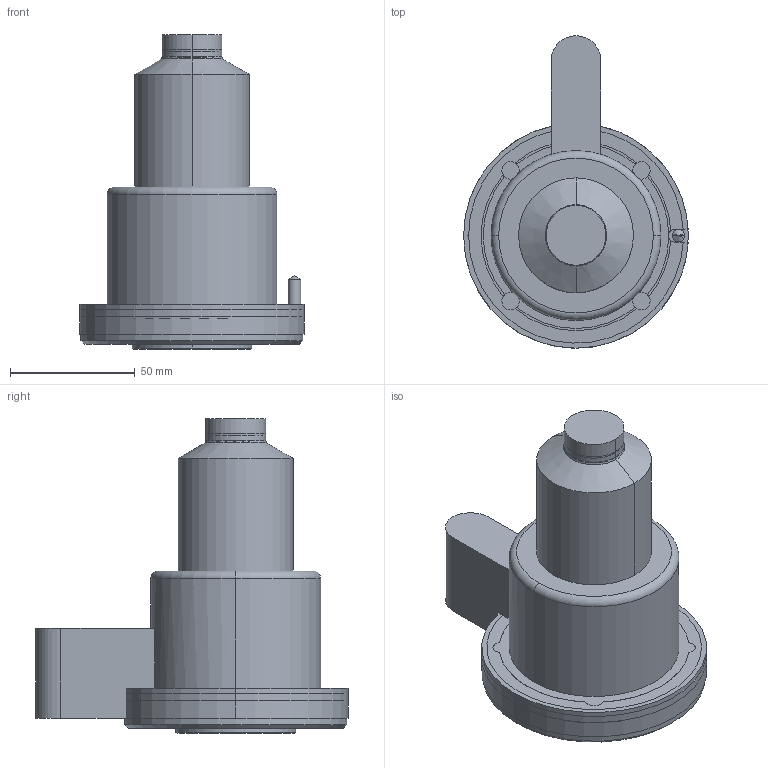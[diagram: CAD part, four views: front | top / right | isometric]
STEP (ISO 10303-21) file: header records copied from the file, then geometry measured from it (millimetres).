
FILE_DESCRIPTION (( 'STEP AP214' ), '1' );
FILE_NAME ('SR16_CLOSED_120_BAND.STEP', '2009-05-07T15:10:28', ( 'Synventive Molding Solutions' ), ( 'Synventive Molding Solutions' ), 'SwSTEP 2.0', 'SolidWorks 2008', '' );
FILE_SCHEMA (( 'AUTOMOTIVE_DESIGN' ));
Length unit declared in the file: millimetre
Products named in the file (1): SR16_CLOSED_120_BAND
Bounding box: 90 x 125 x 126 mm (x, y, z)
Volume: 604558.7 mm3; surface area: 77034.3 mm2
Topology: 3 solids, 3 shells, 289 faces, 754 edges, 473 vertices
Faces by surface type: cylinder 115, plane 95, torus 43, cone 32, sphere 2, bspline 2
Entity records: 12981 total; most frequent: CARTESIAN_POINT 2500, DIRECTION 1606, ORIENTED_EDGE 1500, EDGE_CURVE 750, AXIS2_PLACEMENT_3D 642, VERTEX_POINT 473, CIRCLE 354, LINE 322
